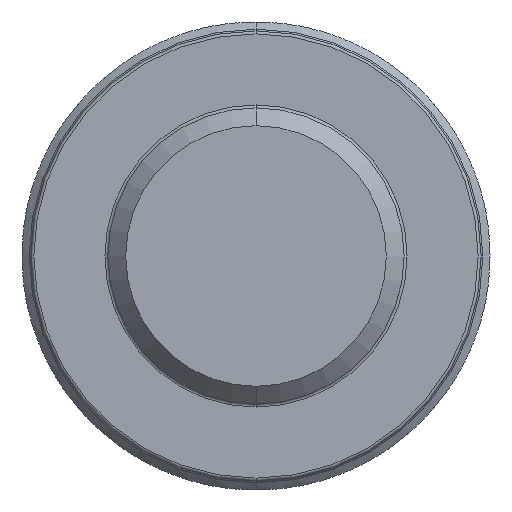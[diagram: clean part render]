
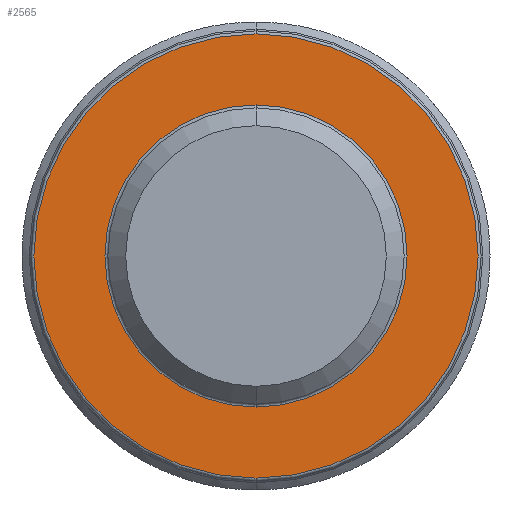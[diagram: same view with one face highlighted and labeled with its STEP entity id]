
A CAD part, front view. The second image highlights one B-rep face of the part: STEP entity #2565.
In plain terms, the highlighted planar face has unit normal (0, -1, 0).
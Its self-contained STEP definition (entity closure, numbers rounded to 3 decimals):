
#130 = DIRECTION ( 'NONE',  ( 0., 0., -1. ) ) ;
#206 = ORIENTED_EDGE ( 'NONE', *, *, #5956, .T. ) ;
#742 = FACE_OUTER_BOUND ( 'NONE', #5247, .T. ) ;
#1004 = AXIS2_PLACEMENT_3D ( 'NONE', #3502, #6088, #1434 ) ;
#1251 = CARTESIAN_POINT ( 'NONE',  ( 0., -10., 0. ) ) ;
#1304 = DIRECTION ( 'NONE',  ( 0., -1., 0. ) ) ;
#1312 = DIRECTION ( 'NONE',  ( 0., -1., 0. ) ) ;
#1334 = CARTESIAN_POINT ( 'NONE',  ( 0., -10., 7.5 ) ) ;
#1434 = DIRECTION ( 'NONE',  ( 0., 0., -1. ) ) ;
#1525 = VERTEX_POINT ( 'NONE', #5304 ) ;
#1531 = DIRECTION ( 'NONE',  ( 0., 0., -1. ) ) ;
#1917 = VERTEX_POINT ( 'NONE', #7759 ) ;
#1987 = CARTESIAN_POINT ( 'NONE',  ( 0., -10., 0. ) ) ;
#2064 = AXIS2_PLACEMENT_3D ( 'NONE', #4508, #1304, #3880 ) ;
#2088 = AXIS2_PLACEMENT_3D ( 'NONE', #2750, #3553, #1531 ) ;
#2269 = ORIENTED_EDGE ( 'NONE', *, *, #5751, .T. ) ;
#2565 = ADVANCED_FACE ( 'NONE', ( #3239, #742 ), #5183, .T. ) ;
#2750 = CARTESIAN_POINT ( 'NONE',  ( 0., -10., 0. ) ) ;
#3191 = DIRECTION ( 'NONE',  ( 0., 1., 0. ) ) ;
#3239 = FACE_BOUND ( 'NONE', #7836, .T. ) ;
#3344 = ORIENTED_EDGE ( 'NONE', *, *, #4178, .T. ) ;
#3502 = CARTESIAN_POINT ( 'NONE',  ( 0., -10., 0. ) ) ;
#3553 = DIRECTION ( 'NONE',  ( 0., 1., 0. ) ) ;
#3564 = CIRCLE ( 'NONE', #7757, 7.5 ) ;
#3690 = EDGE_CURVE ( 'NONE', #5606, #1525, #8174, .T. ) ;
#3710 = VERTEX_POINT ( 'NONE', #1334 ) ;
#3880 = DIRECTION ( 'NONE',  ( 0., 0., -1. ) ) ;
#4178 = EDGE_CURVE ( 'NONE', #1525, #5606, #4525, .T. ) ;
#4508 = CARTESIAN_POINT ( 'NONE',  ( 5., -10., 0. ) ) ;
#4525 = CIRCLE ( 'NONE', #2088, 5.1 ) ;
#4648 = CIRCLE ( 'NONE', #1004, 7.5 ) ;
#5183 = PLANE ( 'NONE',  #2064 ) ;
#5247 = EDGE_LOOP ( 'NONE', ( #2269, #206 ) ) ;
#5304 = CARTESIAN_POINT ( 'NONE',  ( 0., -10., -5.1 ) ) ;
#5601 = AXIS2_PLACEMENT_3D ( 'NONE', #1251, #3191, #5780 ) ;
#5606 = VERTEX_POINT ( 'NONE', #6096 ) ;
#5751 = EDGE_CURVE ( 'NONE', #1917, #3710, #3564, .T. ) ;
#5780 = DIRECTION ( 'NONE',  ( 0., 0., -1. ) ) ;
#5956 = EDGE_CURVE ( 'NONE', #3710, #1917, #4648, .T. ) ;
#6088 = DIRECTION ( 'NONE',  ( 0., -1., 0. ) ) ;
#6096 = CARTESIAN_POINT ( 'NONE',  ( 0., -10., 5.1 ) ) ;
#6243 = ORIENTED_EDGE ( 'NONE', *, *, #3690, .T. ) ;
#7757 = AXIS2_PLACEMENT_3D ( 'NONE', #1987, #1312, #130 ) ;
#7759 = CARTESIAN_POINT ( 'NONE',  ( 0., -10., -7.5 ) ) ;
#7836 = EDGE_LOOP ( 'NONE', ( #3344, #6243 ) ) ;
#8174 = CIRCLE ( 'NONE', #5601, 5.1 ) ;
